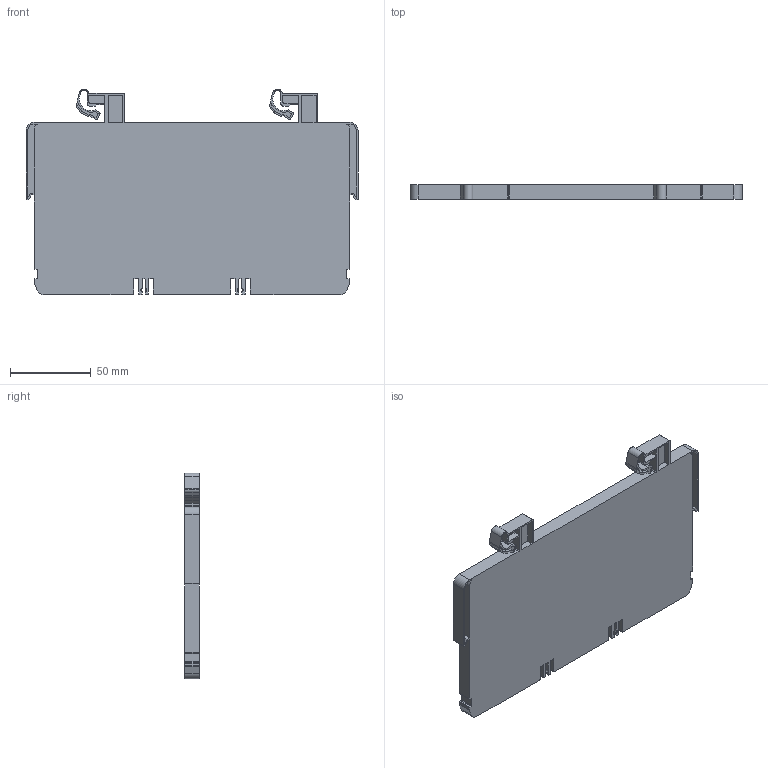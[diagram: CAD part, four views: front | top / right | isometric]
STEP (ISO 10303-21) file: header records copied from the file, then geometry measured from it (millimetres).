
FILE_DESCRIPTION (( 'STEP AP203' ), '1' );
FILE_NAME ('DN53320.STEP', '2025-10-31T07:14:13', ( '' ), ( '' ), 'SwSTEP 2.0', 'SolidWorks 2019', '' );
FILE_SCHEMA (( 'CONFIG_CONTROL_DESIGN' ));
Length unit declared in the file: millimetre
Products named in the file (1): DN53320
Bounding box: 206 x 9 x 127.68 mm (x, y, z)
Volume: 191132.8 mm3; surface area: 56266.2 mm2
Topology: 1 solids, 1 shells, 282 faces, 792 edges, 528 vertices
Faces by surface type: plane 186, cylinder 88, cone 8
Entity records: 9173 total; most frequent: CARTESIAN_POINT 1651, ORIENTED_EDGE 1584, DIRECTION 1526, EDGE_CURVE 792, LINE 592, VECTOR 592, VERTEX_POINT 528, AXIS2_PLACEMENT_3D 467
